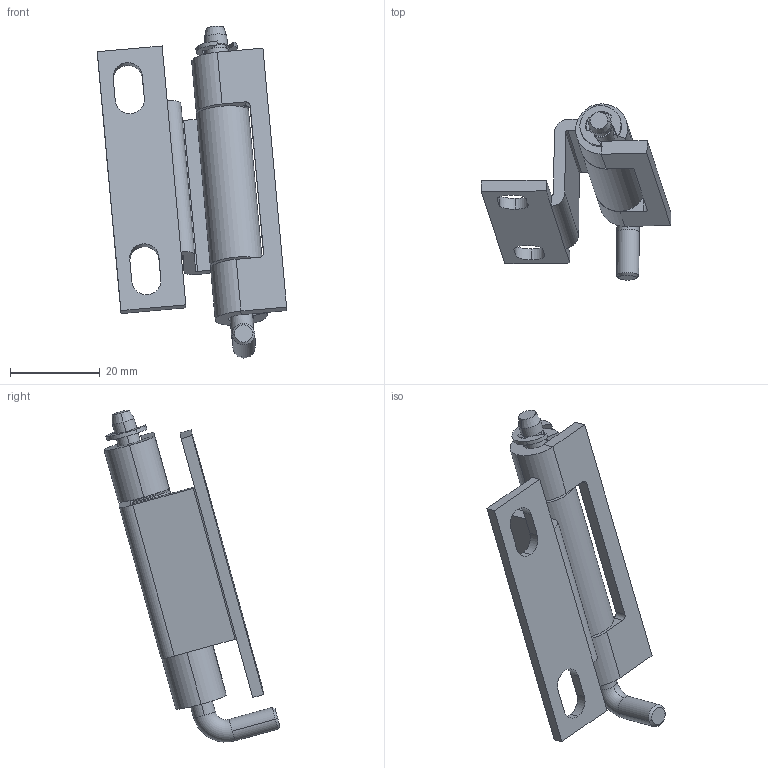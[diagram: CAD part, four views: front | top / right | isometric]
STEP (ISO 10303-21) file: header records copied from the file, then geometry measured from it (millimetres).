
FILE_DESCRIPTION (( 'STEP AP203' ), '1' );
FILE_NAME ('XG02-043-3.STEP', '2023-12-08T06:31:26', ( '' ), ( '' ), 'SwSTEP 2.0', 'SolidWorks 2020', '' );
FILE_SCHEMA (( 'CONFIG_CONTROL_DESIGN' ));
Length unit declared in the file: millimetre
Products named in the file (5): XG02-043-3; 250-3-1-1; HL031-1B; 250-3-2; HL031 C- C
Assembly tree (4 placements, depth 2):
  XG02-043-3
    HL031-1B
    HL031 C- C
    250-3-1-1
    250-3-2
Bounding box: 42.17 x 39.11 x 73.87 mm (x, y, z)
Volume: 10883.4 mm3; surface area: 9978.1 mm2
Topology: 4 solids, 4 shells, 98 faces, 252 edges, 164 vertices
Faces by surface type: plane 47, cylinder 45, cone 4, torus 2
Entity records: 3531 total; most frequent: DIRECTION 562, CARTESIAN_POINT 521, ORIENTED_EDGE 504, EDGE_CURVE 252, AXIS2_PLACEMENT_3D 205, VERTEX_POINT 164, VECTOR 152, LINE 152
